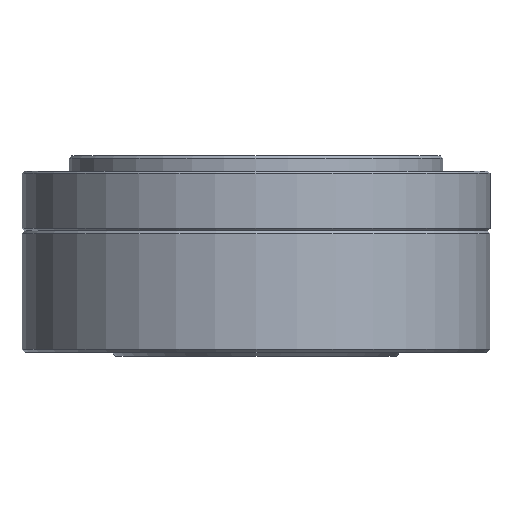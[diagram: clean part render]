
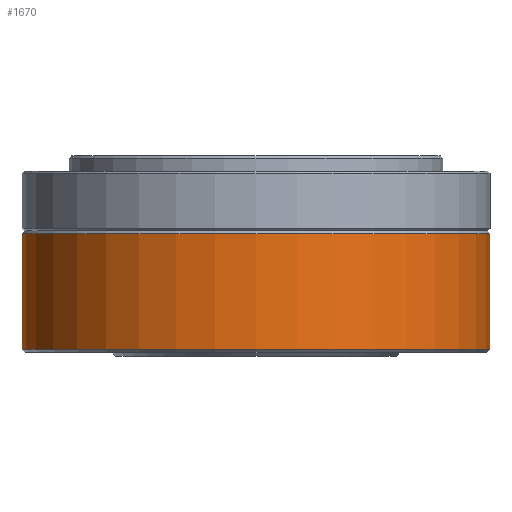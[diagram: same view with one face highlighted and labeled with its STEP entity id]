
A CAD part, front view. The second image highlights one B-rep face of the part: STEP entity #1670.
In plain terms, the highlighted cylindrical face has radius 31 mm (diameter 62 mm), a full revolution.
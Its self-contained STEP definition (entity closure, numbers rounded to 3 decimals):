
#1453=CYLINDRICAL_SURFACE('',#8130,31.);
#1670=ADVANCED_FACE('',(#2464,#2465),#1453,.T.);
#2464=FACE_BOUND('',#3247,.T.);
#2465=FACE_BOUND('',#3248,.T.);
#3247=EDGE_LOOP('',(#4175));
#3248=EDGE_LOOP('',(#4176));
#4175=ORIENTED_EDGE('',*,*,#6549,.T.);
#4176=ORIENTED_EDGE('',*,*,#6548,.F.);
#5829=VERTEX_POINT('',#11963);
#5830=VERTEX_POINT('',#11966);
#6548=EDGE_CURVE('',#5829,#5829,#7410,.T.);
#6549=EDGE_CURVE('',#5830,#5830,#7411,.T.);
#7410=CIRCLE('',#8127,31.);
#7411=CIRCLE('',#8129,31.);
#8127=AXIS2_PLACEMENT_3D('',#11962,#9523,#9524);
#8129=AXIS2_PLACEMENT_3D('',#11965,#9527,#9528);
#8130=AXIS2_PLACEMENT_3D('',#11967,#9529,#9530);
#9523=DIRECTION('',(0.,0.,-1.));
#9524=DIRECTION('',(-1.,0.,0.));
#9527=DIRECTION('',(0.,0.,-1.));
#9528=DIRECTION('',(-1.,0.,0.));
#9529=DIRECTION('',(0.,0.,-1.));
#9530=DIRECTION('',(-1.,0.,0.));
#11962=CARTESIAN_POINT('',(0.,0.,0.9));
#11963=CARTESIAN_POINT('',(-31.,0.,0.9));
#11965=CARTESIAN_POINT('',(0.,0.,16.2));
#11966=CARTESIAN_POINT('',(-31.,0.,16.2));
#11967=CARTESIAN_POINT('',(0.,0.,0.));
